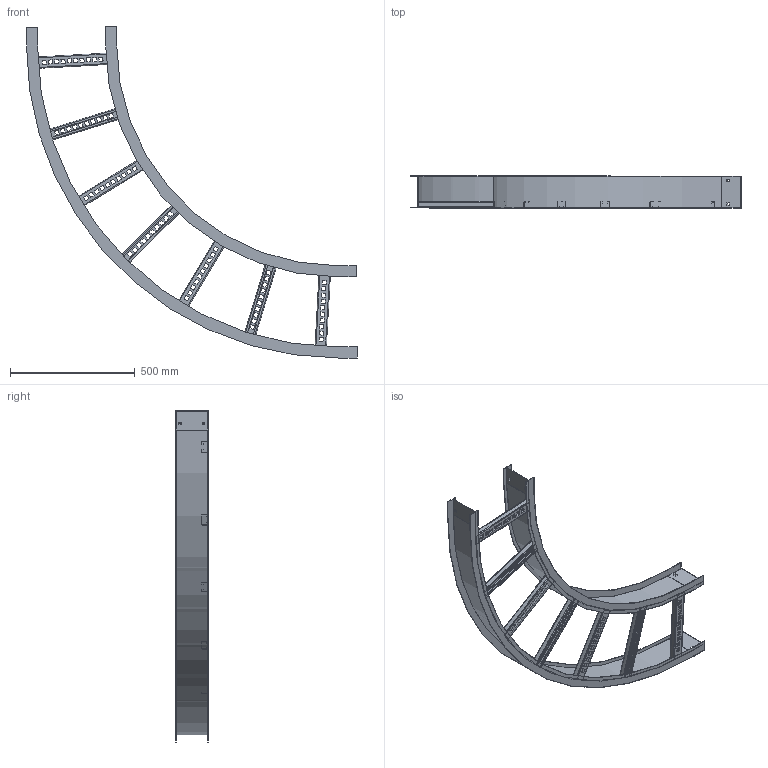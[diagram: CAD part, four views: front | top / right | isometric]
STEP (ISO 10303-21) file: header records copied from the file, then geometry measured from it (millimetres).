
FILE_DESCRIPTION((''),'2;1');
FILE_NAME('AHF512LHB9036_ASM','2010-01-27T',('erouzier'),(''),'PRO/ENGINEER BY PARAMETRIC TECHNOLOGY CORPORATION, 2008510','PRO/ENGINEER BY PARAMETRIC TECHNOLOGY CORPORATION, 2008510','');
FILE_SCHEMA(('CONFIG_CONTROL_DESIGN'));
Length unit declared in the file: inch
Products named in the file (4): CDS001811-5-90-36-I; CDS001811-5-90-48-O; CDS002159L12-P; AHF512LHB9036_ASM
Assembly tree (9 placements, depth 2):
  AHF512LHB9036_ASM
    CDS001811-5-90-36-I
    CDS001811-5-90-48-O
    CDS002159L12-P  x7
Bounding box: 1328.29 x 129.03 x 1332.36 mm (x, y, z)
Volume: 1906204.7 mm3; surface area: 2057703.4 mm2
Topology: 9 solids, 9 shells, 854 faces, 2508 edges, 1672 vertices
Faces by surface type: plane 485, cylinder 369
Entity records: 6630 total; most frequent: CARTESIAN_POINT 1147, ORIENTED_EDGE 1128, DIRECTION 1104, EDGE_CURVE 564, VECTOR 438, LINE 438, VERTEX_POINT 376, AXIS2_PLACEMENT_3D 333
